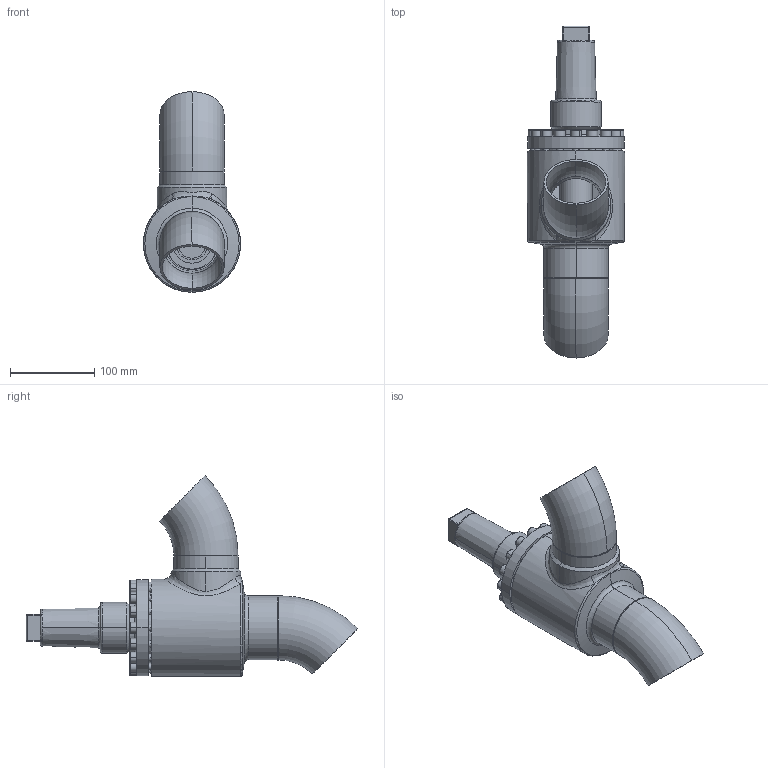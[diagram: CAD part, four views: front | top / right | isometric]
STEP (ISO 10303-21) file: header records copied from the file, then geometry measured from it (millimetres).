
FILE_DESCRIPTION (( 'STEP AP214' ), '1' );
FILE_NAME ('AVB16300D17-DN065_R1_PS40.STEP', '2006-04-27T12:17:29', ( 'Herr Grams' ), ( 'AWP GmbH' ), 'SwSTEP 2.0', 'SolidWorks 2002296', '' );
FILE_SCHEMA (( 'AUTOMOTIVE_DESIGN' ));
Length unit declared in the file: millimetre
Products named in the file (10): AVB16300D17-DN065_R1_PS40; AVB16300K17_Deck+Schr-DN65_Standard; Deckel16300K17-DN65_Standard; Zylinderschraube-DIN912_M 8x 25; Kappe16402_DN040-65_Standard; Gehäuse-kpl16300-DN065_R1_Standard; Gehäuse16400-DN065_Standard; Rohrbogen 45°_Rohrbogen-DN065-45°; bead-DN065-2_Standard; bead-DN065-3_Standard
Assembly tree (25 placements, depth 3):
  AVB16300D17-DN065_R1_PS40
    Gehäuse-kpl16300-DN065_R1_Standard
      Rohrbogen 45°_Rohrbogen-DN065-45°  x2
      Gehäuse16400-DN065_Standard
      bead-DN065-2_Standard
      bead-DN065-3_Standard
    AVB16300K17_Deck+Schr-DN65_Standard
      Zylinderschraube-DIN912_M 8x 25  x16
      Deckel16300K17-DN65_Standard
    Kappe16402_DN040-65_Standard
Bounding box: 115 x 393.08 x 237.58 mm (x, y, z)
Volume: 1016102.8 mm3; surface area: 289811.8 mm2
Topology: 23 solids, 23 shells, 476 faces, 1044 edges, 662 vertices
Faces by surface type: plane 201, cylinder 158, torus 55, cone 52, bspline 10
Entity records: 17746 total; most frequent: CARTESIAN_POINT 12259, DIRECTION 1080, ORIENTED_EDGE 924, AXIS2_PLACEMENT_3D 464, EDGE_CURVE 462, VERTEX_POINT 294, EDGE_LOOP 260, CIRCLE 244
